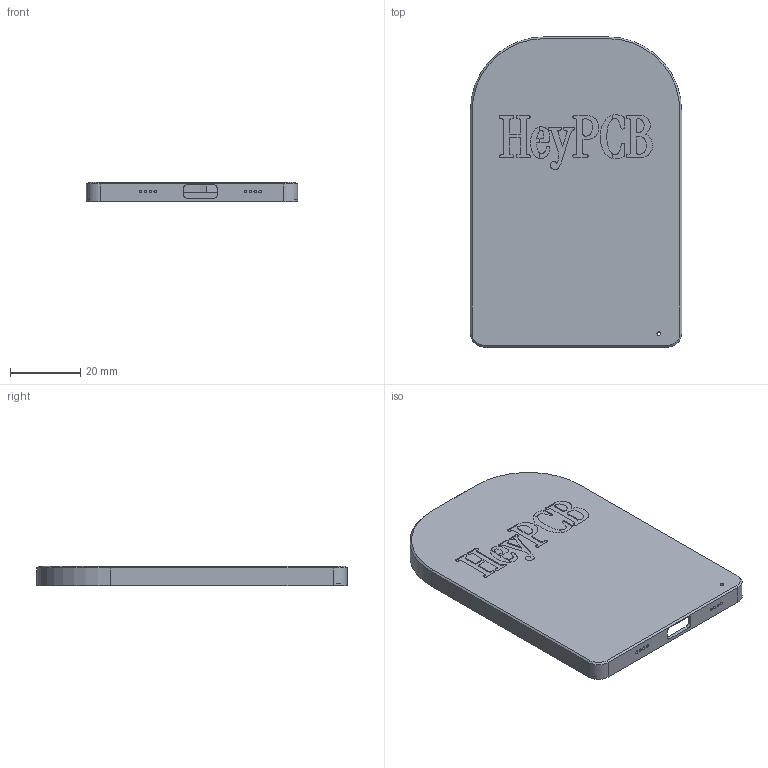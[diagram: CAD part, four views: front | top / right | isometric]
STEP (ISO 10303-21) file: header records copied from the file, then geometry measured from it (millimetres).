
FILE_DESCRIPTION(('Open CASCADE Model'),'2;1');
FILE_NAME('Open CASCADE Shape Model','2026-10-23T21:53:46',('Author'),( 'Open CASCADE'),'Open CASCADE STEP processor 8.0','build123d', 'Unknown');
FILE_SCHEMA(('AUTOMOTIVE_DESIGN { 1 0 10303 214 1 1 1 1 }'));
Length unit declared in the file: millimetre
Products named in the file (1): COMPOUND
Bounding box: 60 x 88.1 x 5.6 mm (x, y, z)
Surface area: 13991.6 mm2 (no closed solid volume)
Topology: 0 solids, 5 shells, 315 faces, 1131 edges, 840 vertices
Faces by surface type: plane 233, cylinder 78, cone 4
Full cylindrical faces by diameter (mm): 0.8 x8, 1 x1, 1.35 x6, 1.5 x3, 1.6 x1, 2.3 x1, 3 x1, 3.2 x2, 3.4 x3
Entity records: 26928 total; most frequent: CARTESIAN_POINT 9370, DIRECTION 2715, ORIENTED_EDGE 1768, PCURVE 1768, DEFINITIONAL_REPRESENTATION 1768, LINE 1670, VECTOR 1670, EDGE_CURVE 1131
